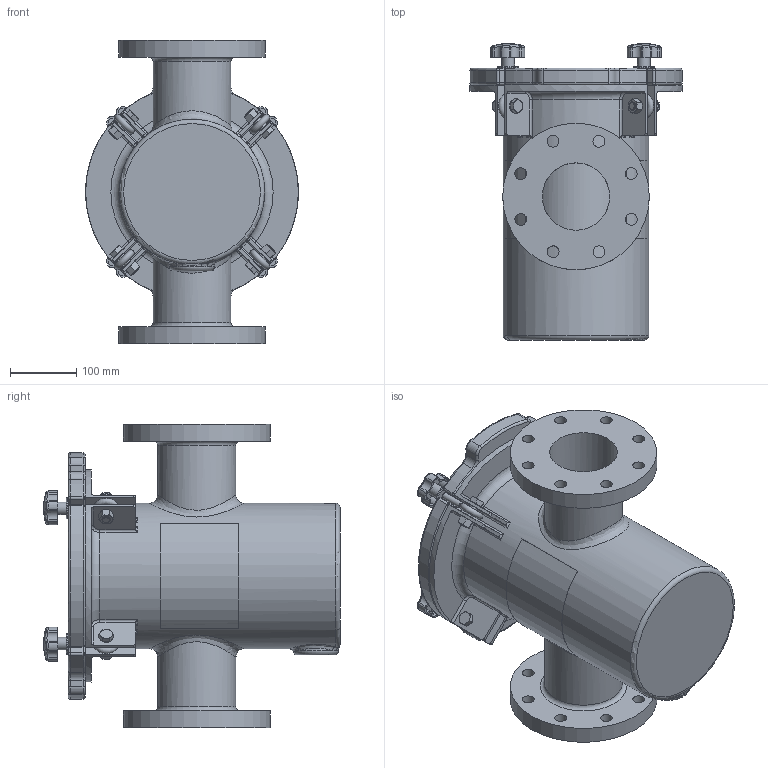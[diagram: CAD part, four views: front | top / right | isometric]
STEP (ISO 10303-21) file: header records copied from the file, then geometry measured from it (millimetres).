
FILE_DESCRIPTION(/* description */ ('STRAINER BODY'),/* implementation_level */ '2;1');
FILE_NAME(/* name */ '\\chntshnas1\IP_PUMPS\NeptuneBenson\Project Execution\WIP\Ready for delivery - Do not Disturb -Updated with metric Flange\Workspace\FG Straight Strainer\150NBFG04X04-MM.stp',/* time_stamp */ '2016-10-18T19:43:54+05:00',/* author */ ('20076253'),/* organization */ (''),/* preprocessor_version */ 'ST-DEVELOPER v16.1',/* originating_system */ 'Autodesk Inventor 2016',/* authorisation */ '');
FILE_SCHEMA (('AUTOMOTIVE_DESIGN { 1 0 10303 214 3 1 1 }'));
Length unit declared in the file: inch
Products named in the file (18): NBFGBODY04X04MM; 150NBCVR13R1; 150NBGSK08R1; Perforated Basket 8in; Bride (Ring) 8in; Baffle 8in; Handle 8in; Bottom Strainer 8in; NBBSK04T316; Nut- 1_2  UNC; Bolt-1_2 x 1 1_2  UNC; EyeBolt; Washer; Knob M10; Securing Assembly For FG without Brace; Label for 8.625 inch (Right)_FG; Label for 8.625 inch (Left)_FG; Guardian FG H&L Strainer (Metric)
Assembly tree (20 placements, depth 3):
  Guardian FG H&L Strainer (Metric)
    NBFGBODY04X04MM
    150NBCVR13R1
    150NBGSK08R1
    NBBSK04T316
      Perforated Basket 8in
      Bride (Ring) 8in
      Baffle 8in
      Handle 8in
      Bottom Strainer 8in
    Securing Assembly For FG without Brace  x4
      Nut- 1_2  UNC
      Bolt-1_2 x 1 1_2  UNC
      EyeBolt
      Washer
      Knob M10
    Label for 8.625 inch (Right)_FG
    Label for 8.625 inch (Left)_FG
Bounding box: 320.68 x 446.18 x 457.2 mm (x, y, z)
Volume: 7541417.4 mm3; surface area: 1777770.8 mm2
Topology: 30 solids, 30 shells, 930 faces, 2138 edges, 1270 vertices
Faces by surface type: cylinder 344, plane 248, torus 93, cone 92, bspline 85, sphere 68
Full cylindrical faces by diameter (mm): 3.175 x10, 6.35 x1, 8.382 x4, 9.525 x8, 10.592 x4, 12.7 x4, 15.875 x8, 17.78 x16, 19 x8, 19.05 x4, 22.809 x1, 31.75 x4, 101.6 x2, 117.475 x2, 142.875 x2, 146.05 x1, 148.59 x1, 203.2 x2, 212.725 x1, 219.075 x1, 220.98 x2, 222.25 x1, 257.175 x1, 263.525 x1
Entity records: 20595 total; most frequent: CARTESIAN_POINT 7078, DIRECTION 2807, ORIENTED_EDGE 2504, EDGE_CURVE 1252, AXIS2_PLACEMENT_3D 1187, VERTEX_POINT 800, EDGE_LOOP 744, CIRCLE 588
